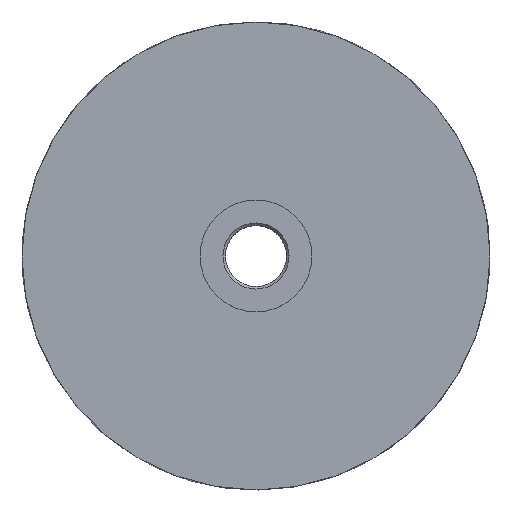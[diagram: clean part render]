
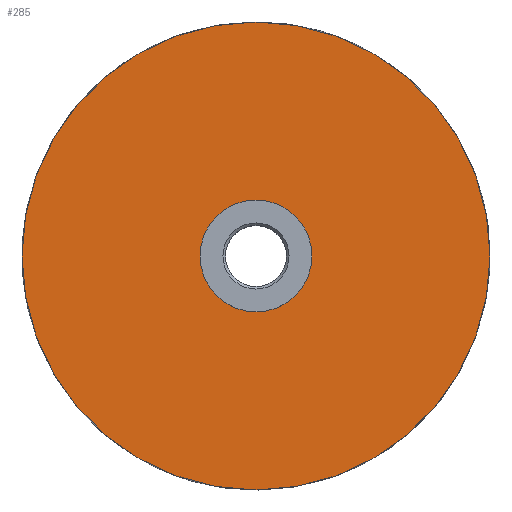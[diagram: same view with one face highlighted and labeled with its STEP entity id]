
A CAD part, top view. The second image highlights one B-rep face of the part: STEP entity #285.
In plain terms, the highlighted planar face has unit normal (0, 0, 1).
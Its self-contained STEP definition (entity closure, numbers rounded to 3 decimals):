
#216 = CYLINDRICAL_SURFACE('',#217,11.);
#217 = AXIS2_PLACEMENT_3D('',#218,#219,#220);
#218 = CARTESIAN_POINT('',(0.,0.,42.));
#219 = DIRECTION('',(0.,0.,1.));
#220 = DIRECTION('',(1.,0.,-0.));
#234 = EDGE_CURVE('',#235,#235,#237,.T.);
#235 = VERTEX_POINT('',#236);
#236 = CARTESIAN_POINT('',(11.,0.,42.));
#237 = SURFACE_CURVE('',#238,(#243,#250),.PCURVE_S1.);
#238 = CIRCLE('',#239,11.);
#239 = AXIS2_PLACEMENT_3D('',#240,#241,#242);
#240 = CARTESIAN_POINT('',(0.,0.,42.));
#241 = DIRECTION('',(0.,0.,1.));
#242 = DIRECTION('',(1.,0.,-0.));
#243 = PCURVE('',#216,#244);
#244 = DEFINITIONAL_REPRESENTATION('',(#245),#249);
#245 = LINE('',#246,#247);
#246 = CARTESIAN_POINT('',(0.,0.));
#247 = VECTOR('',#248,1.);
#248 = DIRECTION('',(1.,0.));
#249 = ( GEOMETRIC_REPRESENTATION_CONTEXT(2) 
PARAMETRIC_REPRESENTATION_CONTEXT() REPRESENTATION_CONTEXT('2D SPACE',''
  ) );
#250 = PCURVE('',#251,#256);
#251 = PLANE('',#252);
#252 = AXIS2_PLACEMENT_3D('',#253,#254,#255);
#253 = CARTESIAN_POINT('',(0.,0.,42.));
#254 = DIRECTION('',(0.,0.,1.));
#255 = DIRECTION('',(1.,0.,-0.));
#256 = DEFINITIONAL_REPRESENTATION('',(#257),#261);
#257 = CIRCLE('',#258,11.);
#258 = AXIS2_PLACEMENT_2D('',#259,#260);
#259 = CARTESIAN_POINT('',(0.,0.));
#260 = DIRECTION('',(1.,0.));
#261 = ( GEOMETRIC_REPRESENTATION_CONTEXT(2) 
PARAMETRIC_REPRESENTATION_CONTEXT() REPRESENTATION_CONTEXT('2D SPACE',''
  ) );
#285 = ADVANCED_FACE('',(#286,#317),#251,.T.);
#286 = FACE_BOUND('',#287,.T.);
#287 = EDGE_LOOP('',(#288));
#288 = ORIENTED_EDGE('',*,*,#289,.T.);
#289 = EDGE_CURVE('',#290,#290,#292,.T.);
#290 = VERTEX_POINT('',#291);
#291 = CARTESIAN_POINT('',(46.,0.,42.));
#292 = SURFACE_CURVE('',#293,(#298,#305),.PCURVE_S1.);
#293 = CIRCLE('',#294,46.);
#294 = AXIS2_PLACEMENT_3D('',#295,#296,#297);
#295 = CARTESIAN_POINT('',(0.,0.,42.));
#296 = DIRECTION('',(0.,0.,1.));
#297 = DIRECTION('',(1.,0.,-0.));
#298 = PCURVE('',#251,#299);
#299 = DEFINITIONAL_REPRESENTATION('',(#300),#304);
#300 = CIRCLE('',#301,46.);
#301 = AXIS2_PLACEMENT_2D('',#302,#303);
#302 = CARTESIAN_POINT('',(0.,0.));
#303 = DIRECTION('',(1.,0.));
#304 = ( GEOMETRIC_REPRESENTATION_CONTEXT(2) 
PARAMETRIC_REPRESENTATION_CONTEXT() REPRESENTATION_CONTEXT('2D SPACE',''
  ) );
#305 = PCURVE('',#306,#311);
#306 = CYLINDRICAL_SURFACE('',#307,46.);
#307 = AXIS2_PLACEMENT_3D('',#308,#309,#310);
#308 = CARTESIAN_POINT('',(0.,0.,39.8));
#309 = DIRECTION('',(0.,0.,1.));
#310 = DIRECTION('',(1.,0.,-0.));
#311 = DEFINITIONAL_REPRESENTATION('',(#312),#316);
#312 = LINE('',#313,#314);
#313 = CARTESIAN_POINT('',(0.,2.2));
#314 = VECTOR('',#315,1.);
#315 = DIRECTION('',(1.,0.));
#316 = ( GEOMETRIC_REPRESENTATION_CONTEXT(2) 
PARAMETRIC_REPRESENTATION_CONTEXT() REPRESENTATION_CONTEXT('2D SPACE',''
  ) );
#317 = FACE_BOUND('',#318,.T.);
#318 = EDGE_LOOP('',(#319));
#319 = ORIENTED_EDGE('',*,*,#234,.F.);
